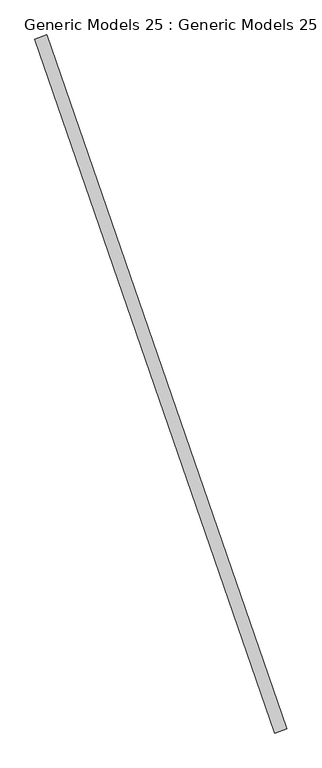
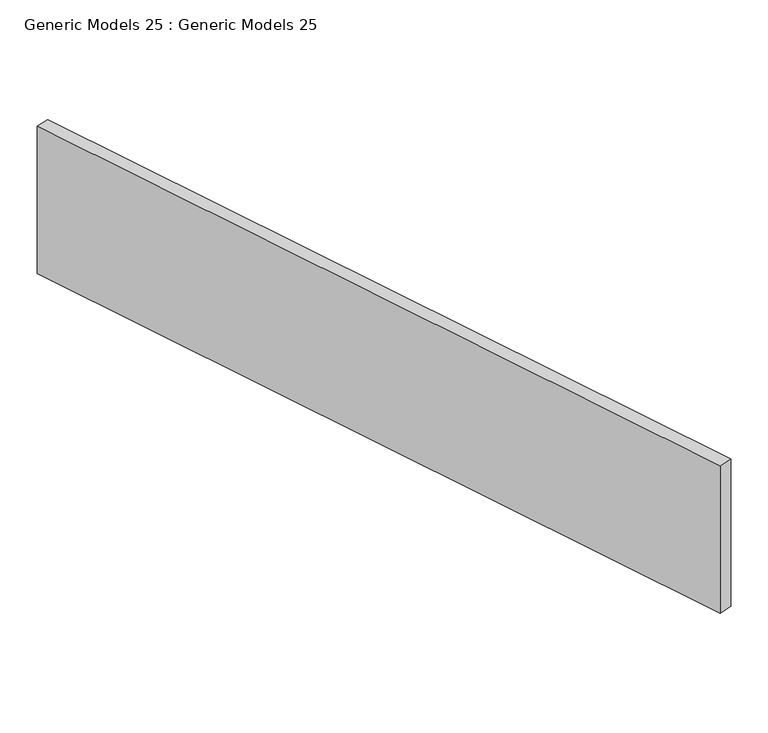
"""IFC4 building model written with IfcOpenShell, lengths in millimetres: proxy geometry, Generic Models 25 : Generic Models 25."""

from ifc_helpers import new_model, si_unit, frame, origin, place, context, project, spatial, polyline, outline, extrude, source, transform, mapped, element, save


def generic_models_25_generic_models_25_63c2ee15(model_context):
    return source(origin(), model_context, "Body", "SweptSolid", [
        extrude(outline(polyline([(486370.2788075, 3475.5430024), (485059.028959, 7271.9922195), (485125.0168287, 7294.78367), (486436.2666771, 3498.3344528), (486370.2788075, 3475.5430024)])), frame((0.0, 0.0, 1200.0), z_axis=(0.0, 0.0, 1.0), x_axis=(1.0, 0.0, 0.0)), (0.0, 0.0, 1.0), 800.0),
    ])


if __name__ == "__main__":
    model = new_model("IFC4")
    model_context = context("Model", 3, world=origin())
    ifc_project = project(units=[si_unit("LENGTHUNIT", "METRE", prefix="MILLI")], contexts=[model_context])
    site = spatial("IfcSite", under=ifc_project)
    building = spatial("IfcBuilding", under=site)
    placement = place(None, origin())
    generic_models_25_generic_models_25_shape = generic_models_25_generic_models_25_63c2ee15(model_context)
    element("IfcBuildingElementProxy", 1, Name="Generic Models 25 : Generic Models 25", ObjectType="Generic Models 25 : Generic Models 25", at=placement, inside=building, context=model_context, shape_type="MappedRepresentation", body=[
        mapped(generic_models_25_generic_models_25_shape, transform((0.0, 0.0, 0.0), x_axis=(1.0, 0.0, 0.0), y_axis=(0.0, 1.0, 0.0), z_axis=(0.0, 0.0, 1.0))),
    ])
    save(model, "model.ifc")
